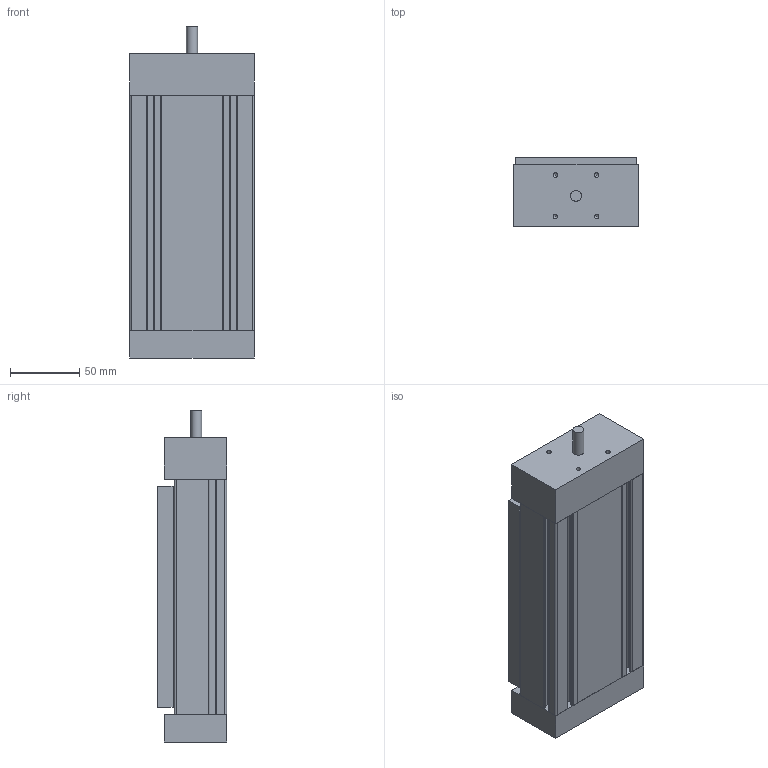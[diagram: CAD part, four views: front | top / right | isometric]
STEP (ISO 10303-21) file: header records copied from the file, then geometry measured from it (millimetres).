
FILE_DESCRIPTION((''),'2;1');
FILE_NAME('C:\Users\disegnatore3\Desktop\alberto_3d\MODELLI PER SITO WEB\ASSI\ML90\ML90PROV-24\FORMATO CAD\ML90PROV-24.stp','2016-09-09T09:15:50',('disegnatore3'),(''),'Autodesk Inventor 2012','Autodesk Inventor 2012','');
FILE_SCHEMA(('AUTOMOTIVE_DESIGN { 1 0 10303 214 1 1 1 1 }'));
Length unit declared in the file: millimetre
Products named in the file (5): ML90PROV-24; PR90PRO; CR90PRO-24; TM90PROV; TR90PROV
Assembly tree (4 placements, depth 2):
  ML90PROV-24
    PR90PRO
    CR90PRO-24
    TM90PROV
    TR90PROV
Bounding box: 90 x 50 x 240 mm (x, y, z)
Volume: 904242.4 mm3; surface area: 128490 mm2
Topology: 4 solids, 4 shells, 114 faces, 303 edges, 198 vertices
Faces by surface type: plane 61, cylinder 41, cone 12
Full cylindrical faces by diameter (mm): 3.242 x12, 8 x1
Entity records: 3459 total; most frequent: DIRECTION 594, CARTESIAN_POINT 575, ORIENTED_EDGE 532, EDGE_CURVE 266, AXIS2_PLACEMENT_3D 205, VERTEX_POINT 186, VECTOR 184, LINE 184
